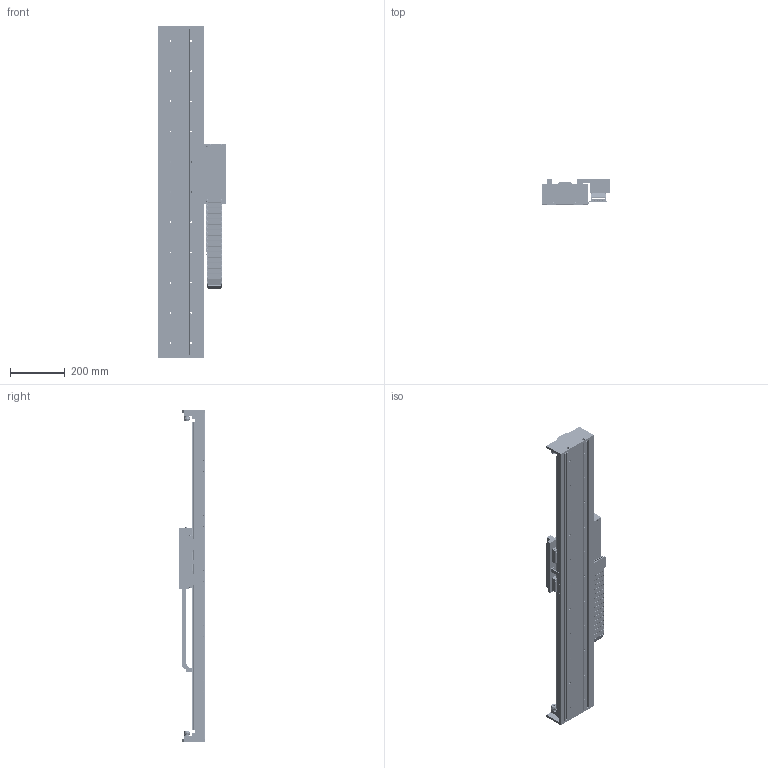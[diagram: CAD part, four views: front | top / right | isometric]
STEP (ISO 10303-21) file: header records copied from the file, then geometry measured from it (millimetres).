
FILE_DESCRIPTION (( 'STEP AP203' ), '1' );
FILE_NAME ('STF35120G-xC1B-Axx.STEP', '2007-09-17T20:53:37', ( 'Yaskawa' ), ( 'Yaskawa' ), 'SwSTEP 2.0', 'SolidWorks 2007', '' );
FILE_SCHEMA (( 'CONFIG_CONTROL_DESIGN' ));
Products named in the file (62): STF2035-006 Endplate; 07.50.028.0_98; 07.50.028.0_99; 07.50.028.0_100; 07.50.028.0_107; 07.50.028.0_106; 07.50.028.0_120; 07.50.028.0_114; 07.50.028.0_115; 07.50.028.0_121; 07.50.028.0_122; STF35120G-xC1B-Axx; STF35BM Base_STF35120-007; STF35120 Base_STF35BM-007; SGLFM-35540AC; STF2035-007 End Stop; Bumper-Medium; B18.3.1M - 6 x 1.0 x 16 Hex SHCS -- 16NHX_B18.3.1M - 6 x 1.0 x 16 Hex SHCS -- 16NHX; Mult-SR15+580LY_007; STF35120 Complete Carriage; STF2035-002A-R2 F2035 Carriage Horn; STF2035-005-R2 Cable Router; STF2035-003 Renishaw Encoder Mount; RGH22B; STCM-R1; STCM-001-R2 Cable Bracket; STCM-002-R2 Cable Assembly Front; STCM-003 Cable Assembly Bottom; STCM-006-R1 Upper E-chain Bracket; Serial Converter; B18.3.5M - 3 x 0.5 x 6 Socket FCHS  -- 6N_B18.3.5M - 3 x 0.5 x 6 Socket FCHS  -- 6N; B18.3.1M - 4 x 0.7 x 12 Hex SHCS -- 12CHX_B18.3.1M - 4 x 0.7 x 12 Hex SHCS -- 12CHX; B18.3.1M - 6 x 1.0 x 25 Hex SHCS -- 25CHX_B18.3.1M - 6 x 1.0 x 25 Hex SHCS -- 25CHX; STCM-007 Lower E-Chain Bracket; STF20120G; 07.50.028.0_96; 07.50.028.0_97; 07.50.028.0_101; 07.50.028.0_102; 07.50.028.0_103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
Assembly tree (111 placements, depth 4):
  STF35120G-xC1B-Axx
    STF20120G
      07.50.028.0_104
      07.50.028.0_107
      07.50.028.0_122
      07.50.028.0_118
      07.50.028.0_111  x5
      07.50.028.0_108
      07.50.028.0_105  x4
      07.50.028.0_101
      07.50.028.0_96
      07.50.028.0_100
      07.50.028.0_116
      07.50.028.0_117
      07.50.028.0_115
      07.50.028.0_112
      07.50.028.0_99
      07.50.028.0_120
      07.50.028.0_119
      07.50.028.0_97
      07.50.028.0_113
      07.50.028.0_109
      07.50.028.0_121
      07.50.028.0_102
      07.50.028.0_103
      07.50.028.0_110
      07.50.028.0_106
      07.50.028.0_98
      07.50.028.0_114
      07.50.028.0_123
    STF2035-006 Endplate  x2
    STCM-007 Lower E-Chain Bracket
    STF35120 Complete Carriage
      B18.3.1M - 4 x 0.7 x 12 Hex SHCS -- 12CHX_B18.3.1M - 4 x 0.7 x 12 Hex SHCS -- 12CHX  x18
      B18.3.4M - 3 x 0.5 x 12 SBHCS --N_B18.3.4M - 3 x 0.5 x 12 SBHCS --N  x3
      B18.3.1M - 6 x 1.0 x 25 Hex SHCS -- 25CHX_B18.3.1M - 6 x 1.0 x 25 Hex SHCS -- 25CHX  x6
      STF35-120 SSR15W Carriage-R2
        RGH22B
        SGLFW-35120AP
        STF2035-002A-R2 F2035 Carriage Horn  x2
        STF2035-005-R2 Cable Router
        STF2035-001C F35-120 Carriage
        STF2035-004 Flag
        STF2035-003 Renishaw Encoder Mount
        SSR15W Block  x4
      STCM-R1
        STCM-005-R1 Cable Assembly Cover
        STCM-006-R1 Upper E-chain Bracket
        STCM-004 Cable Assembly Side
        B18.3.4M - 3 x 0.5 x 12 SBHCS --N_B18.3.4M - 3 x 0.5 x 12 SBHCS --N  x4
        STCM-002-R2 Cable Assembly Front
        B18.3.5M - 3 x 0.5 x 6 Socket FCHS  -- 6N_B18.3.5M - 3 x 0.5 x 6 Socket FCHS  -- 6N  x6
        STCM-003 Cable Assembly Bottom
        Serial Converter
        STCM-001-R2 Cable Bracket
    STF35BM Base_STF35120-007
      SGLFM-35540AC  x2
      End Stop with Bumper  x4
        STF2035-007 End Stop
        Bumper-Medium
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Bounding box: 251.03 x 94.7 x 1209.05 mm (x, y, z)
Volume: 6264589.7 mm3; surface area: 1781519.6 mm2
Topology: 144 solids, 144 shells, 6817 faces, 17248 edges, 10836 vertices
Faces by surface type: plane 3479, cylinder 2518, cone 676, torus 86, bspline 44, sphere 14
Entity records: 135336 total; most frequent: DIRECTION 22742, CARTESIAN_POINT 22289, ORIENTED_EDGE 21032, EDGE_CURVE 10516, AXIS2_PLACEMENT_3D 7981, VERTEX_POINT 6867, VECTOR 6780, LINE 6780
